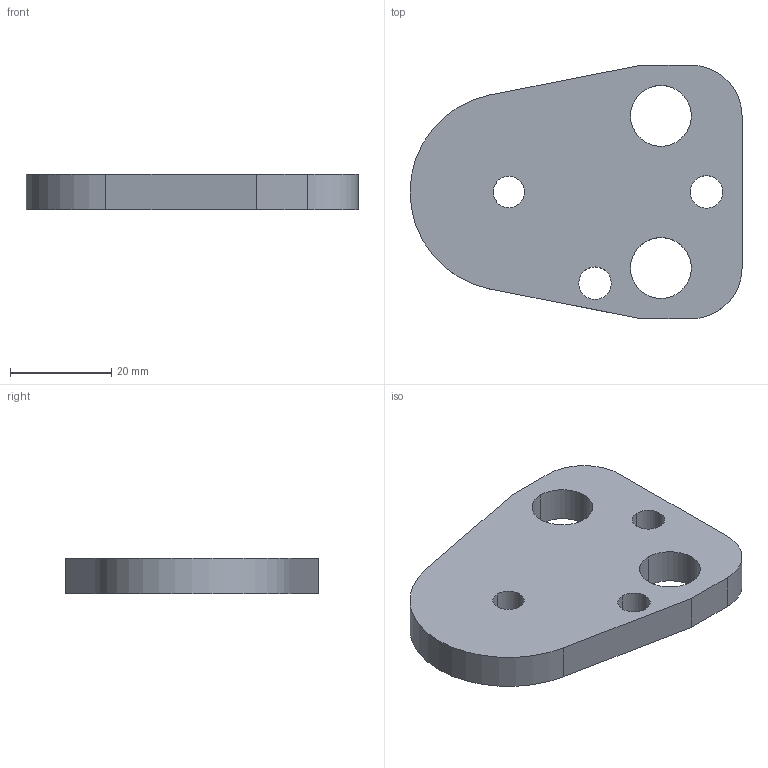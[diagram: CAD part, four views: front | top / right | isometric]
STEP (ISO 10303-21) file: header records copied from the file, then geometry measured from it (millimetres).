
FILE_DESCRIPTION(/* description */ (''),/* implementation_level */ '2;1');
FILE_NAME(/* name */ '3d_bpc25-7_03407_r00.stp',/* time_stamp */ '2011-01-10T14:17:10+09:00',/* author */ ('MISUMI'),/* organization */ (''),/* preprocessor_version */ 'ST-DEVELOPER v11',/* originating_system */ 'UGS - NX 5.0',/* authorisation */ '');
FILE_SCHEMA (('CONFIG_CONTROL_DESIGN'));
Length unit declared in the file: millimetre
Products named in the file (1): 3d_bpc25-7_03407_r00
Bounding box: 65.5 x 50 x 7 mm (x, y, z)
Volume: 16809.5 mm3; surface area: 7118.7 mm2
Topology: 1 solids, 1 shells, 20 faces, 54 edges, 36 vertices
Faces by surface type: cylinder 13, plane 7
Entity records: 750 total; most frequent: DIRECTION 122, CARTESIAN_POINT 111, ORIENTED_EDGE 108, EDGE_CURVE 54, AXIS2_PLACEMENT_3D 47, VERTEX_POINT 36, EDGE_LOOP 30, LINE 28
